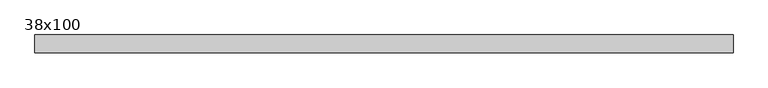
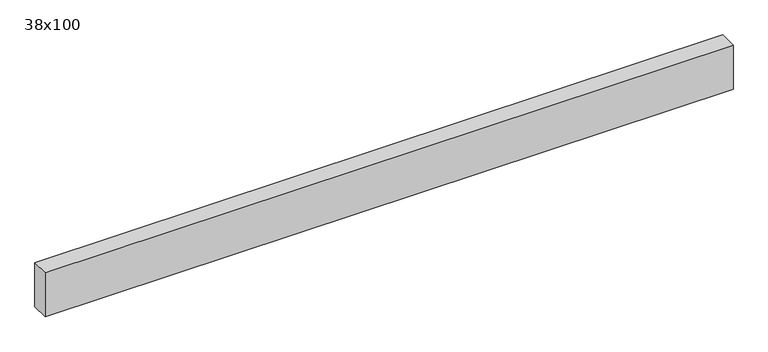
"""IFC4 building model written with IfcOpenShell, lengths in millimetres: beam geometry, Poutre - Bois de construction de dimensions courantes : 38x100."""

from ifc_helpers import new_model, si_unit, frame, origin, place, context, project, spatial, polyline, outline, extrude, source, transform, mapped, element, save


def beam_38x100_1103e8f4(model_context):
    return source(origin(), model_context, "Body", "SweptSolid", [
        extrude(outline(polyline([(720.5, 19.05), (720.5, -19.05), (-756.5, -19.05), (-756.5, 19.05), (720.5, 19.05)])), frame((0.0, 0.0, -50.0), z_axis=(0.0, 0.0, 1.0), x_axis=(1.0, 0.0, 0.0)), (0.0, 0.0, 1.0), 100.0),
    ])


if __name__ == "__main__":
    model = new_model("IFC4")
    model_context = context("Model", 3, world=origin())
    ifc_project = project(units=[si_unit("LENGTHUNIT", "METRE", prefix="MILLI")], contexts=[model_context])
    site = spatial("IfcSite", under=ifc_project)
    building = spatial("IfcBuilding", under=site)
    placement = place(None, origin())
    beam_38x100_shape = beam_38x100_1103e8f4(model_context)
    element("IfcBeam", 1, ObjectType="Poutre - Bois de construction de dimensions courantes : 38x100", at=placement, inside=building, context=model_context, shape_type="MappedRepresentation", body=[
        mapped(beam_38x100_shape, transform((0.0, 0.0, 0.0), x_axis=(1.0, 0.0, 0.0), y_axis=(0.0, 1.0, 0.0), z_axis=(0.0, 0.0, 1.0))),
    ])
    save(model, "model.ifc")
